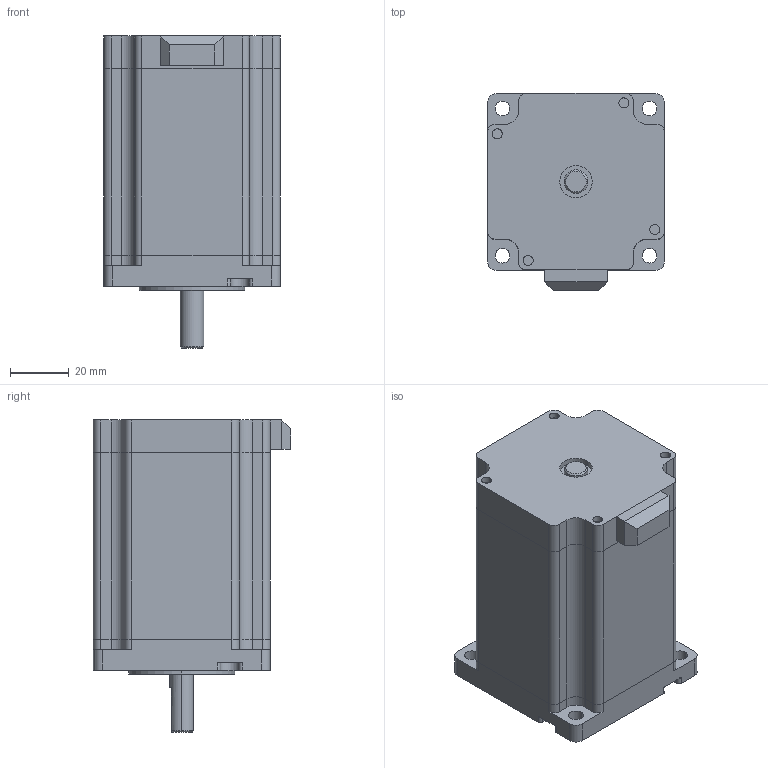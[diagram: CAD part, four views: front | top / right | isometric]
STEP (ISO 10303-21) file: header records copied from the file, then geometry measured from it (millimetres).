
FILE_DESCRIPTION (( 'STEP AP214' ), '1' );
FILE_NAME ('YK560HB86-4221A-01.STEP', '2023-12-21T05:19:09', ( '' ), ( '' ), 'SwSTEP 2.0', 'SolidWorks 2023', '' );
FILE_SCHEMA (( 'AUTOMOTIVE_DESIGN' ));
Length unit declared in the file: millimetre
Products named in the file (1): YK560HB86-4221A-01
Bounding box: 60 x 67 x 106 mm (x, y, z)
Volume: 259634.8 mm3; surface area: 44508.6 mm2
Topology: 5 solids, 5 shells, 230 faces, 606 edges, 397 vertices
Faces by surface type: cylinder 109, plane 102, cone 19
Entity records: 7264 total; most frequent: DIRECTION 1305, CARTESIAN_POINT 1246, ORIENTED_EDGE 1212, EDGE_CURVE 606, AXIS2_PLACEMENT_3D 470, VERTEX_POINT 397, VECTOR 365, LINE 365
